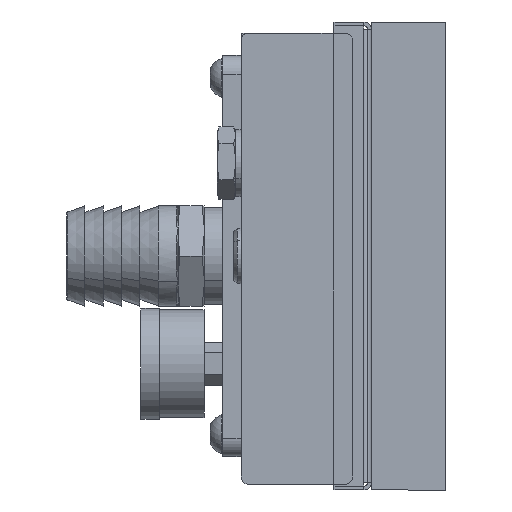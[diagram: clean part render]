
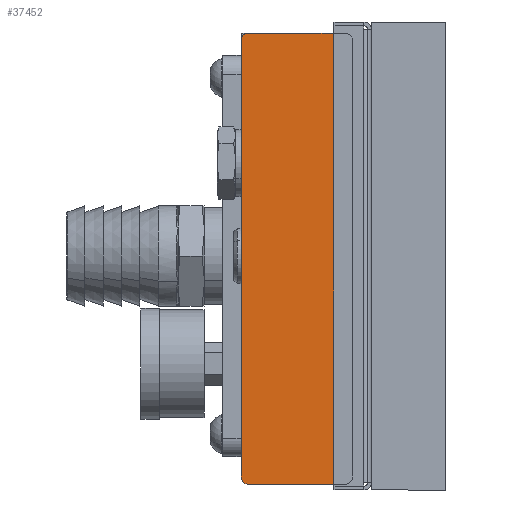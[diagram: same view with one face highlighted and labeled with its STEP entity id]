
A CAD part, left-side view. The second image highlights one B-rep face of the part: STEP entity #37452.
In plain terms, the highlighted planar face has unit normal (-1, 0, 0).
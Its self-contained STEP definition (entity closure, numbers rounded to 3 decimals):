
#6568 = CARTESIAN_POINT ( 'NONE',  ( -363.823, 43.215, 71.373 ) ) ;
#6569 = DIRECTION ( 'NONE',  ( -1., 0., 0. ) ) ;
#6570 = DIRECTION ( 'NONE',  ( 0., 0., 1. ) ) ;
#6648 = CARTESIAN_POINT ( 'NONE',  ( -363.823, 43.215, -46.127 ) ) ;
#6649 = DIRECTION ( 'NONE',  ( -1., 0., 0. ) ) ;
#6650 = DIRECTION ( 'NONE',  ( 0., 0., 1. ) ) ;
#6671 = CARTESIAN_POINT ( 'NONE',  ( -363.823, 45.215, -48.127 ) ) ;
#6672 = DIRECTION ( 'NONE',  ( 0., -1., 0. ) ) ;
#6688 = CARTESIAN_POINT ( 'NONE',  ( -363.823, 17.215, 71.373 ) ) ;
#6689 = DIRECTION ( 'NONE',  ( -1., 0., 0. ) ) ;
#6690 = DIRECTION ( 'NONE',  ( 0., 0., 1. ) ) ;
#6889 = CARTESIAN_POINT ( 'NONE',  ( -363.823, 15.215, 73.373 ) ) ;
#6892 = DIRECTION ( 'NONE',  ( 0., 0., 1. ) ) ;
#8756 = CARTESIAN_POINT ( 'NONE',  ( -363.823, 45.215, 73.373 ) ) ;
#8761 = DIRECTION ( 'NONE',  ( 0., 1., 0. ) ) ;
#8914 = CARTESIAN_POINT ( 'NONE',  ( -363.823, 45.215, 73.373 ) ) ;
#8916 = LINE ( 'NONE', #8756, #8921 ) ;
#8921 = VECTOR ( 'NONE', #8761, 1000. ) ;
#8928 = DIRECTION ( 'NONE',  ( 0., 0., -1. ) ) ;
#8968 = LINE ( 'NONE', #8914, #8979 ) ;
#8979 = VECTOR ( 'NONE', #8928, 1000. ) ;
#9377 = CIRCLE ( 'NONE', #22407, 2. ) ;
#9418 = CIRCLE ( 'NONE', #22416, 2. ) ;
#9450 = LINE ( 'NONE', #6671, #9454 ) ;
#9454 = VECTOR ( 'NONE', #6672, 1000. ) ;
#9457 = CIRCLE ( 'NONE', #22425, 2. ) ;
#9533 = LINE ( 'NONE', #6889, #9536 ) ;
#9536 = VECTOR ( 'NONE', #6892, 1000. ) ;
#10429 = CARTESIAN_POINT ( 'NONE',  ( -363.823, 17.215, -46.127 ) ) ;
#10430 = DIRECTION ( 'NONE',  ( -1., 0., 0. ) ) ;
#10431 = DIRECTION ( 'NONE',  ( 0., 0., 1. ) ) ;
#14792 = CIRCLE ( 'NONE', #22144, 2. ) ;
#15942 = PLANE ( 'NONE',  #26647 ) ;
#15961 = CARTESIAN_POINT ( 'NONE',  ( -363.823, 15.215, 73.373 ) ) ;
#15962 = DIRECTION ( 'NONE',  ( 1., 0., 0. ) ) ;
#15963 = DIRECTION ( 'NONE',  ( 0., 0., 1. ) ) ;
#20276 = EDGE_LOOP ( 'NONE', ( #25935, #26057, #25936, #25933, #25934, #25924, #26056, #25940 ) ) ;
#20346 = VERTEX_POINT ( 'NONE', #21499 ) ;
#20355 = VERTEX_POINT ( 'NONE', #21507 ) ;
#20366 = VERTEX_POINT ( 'NONE', #21518 ) ;
#20470 = VERTEX_POINT ( 'NONE', #21546 ) ;
#20539 = VERTEX_POINT ( 'NONE', #21583 ) ;
#20540 = VERTEX_POINT ( 'NONE', #21584 ) ;
#20557 = VERTEX_POINT ( 'NONE', #21601 ) ;
#20558 = VERTEX_POINT ( 'NONE', #21602 ) ;
#21499 = CARTESIAN_POINT ( 'NONE',  ( -363.823, 17.215, 73.373 ) ) ;
#21507 = CARTESIAN_POINT ( 'NONE',  ( -363.823, 15.215, -46.127 ) ) ;
#21518 = CARTESIAN_POINT ( 'NONE',  ( -363.823, 43.215, 73.373 ) ) ;
#21546 = CARTESIAN_POINT ( 'NONE',  ( -363.823, 45.215, 71.373 ) ) ;
#21583 = CARTESIAN_POINT ( 'NONE',  ( -363.823, 15.215, 71.373 ) ) ;
#21584 = CARTESIAN_POINT ( 'NONE',  ( -363.823, 17.215, -48.127 ) ) ;
#21601 = CARTESIAN_POINT ( 'NONE',  ( -363.823, 45.215, -46.127 ) ) ;
#21602 = CARTESIAN_POINT ( 'NONE',  ( -363.823, 43.215, -48.127 ) ) ;
#22144 = AXIS2_PLACEMENT_3D ( 'NONE', #10429, #10430, #10431 ) ;
#22407 = AXIS2_PLACEMENT_3D ( 'NONE', #6568, #6569, #6570 ) ;
#22416 = AXIS2_PLACEMENT_3D ( 'NONE', #6648, #6649, #6650 ) ;
#22425 = AXIS2_PLACEMENT_3D ( 'NONE', #6688, #6689, #6690 ) ;
#22916 = FACE_OUTER_BOUND ( 'NONE', #20276, .T. ) ;
#25924 = ORIENTED_EDGE ( 'NONE', *, *, #42259, .T. ) ;
#25933 = ORIENTED_EDGE ( 'NONE', *, *, #42292, .T. ) ;
#25934 = ORIENTED_EDGE ( 'NONE', *, *, #41920, .T. ) ;
#25935 = ORIENTED_EDGE ( 'NONE', *, *, #42289, .T. ) ;
#25936 = ORIENTED_EDGE ( 'NONE', *, *, #42331, .T. ) ;
#25940 = ORIENTED_EDGE ( 'NONE', *, *, #42277, .T. ) ;
#26056 = ORIENTED_EDGE ( 'NONE', *, *, #41965, .T. ) ;
#26057 = ORIENTED_EDGE ( 'NONE', *, *, #41123, .T. ) ;
#26647 = AXIS2_PLACEMENT_3D ( 'NONE', #15961, #15962, #15963 ) ;
#37452 = ADVANCED_FACE ( 'NONE', ( #22916 ), #15942, .F. ) ;
#41123 = EDGE_CURVE ( 'NONE', #20540, #20355, #14792, .T. ) ;
#41920 = EDGE_CURVE ( 'NONE', #20346, #20366, #8916, .T. ) ;
#41965 = EDGE_CURVE ( 'NONE', #20470, #20557, #8968, .T. ) ;
#42259 = EDGE_CURVE ( 'NONE', #20366, #20470, #9377, .T. ) ;
#42277 = EDGE_CURVE ( 'NONE', #20557, #20558, #9418, .T. ) ;
#42289 = EDGE_CURVE ( 'NONE', #20558, #20540, #9450, .T. ) ;
#42292 = EDGE_CURVE ( 'NONE', #20539, #20346, #9457, .T. ) ;
#42331 = EDGE_CURVE ( 'NONE', #20355, #20539, #9533, .T. ) ;
